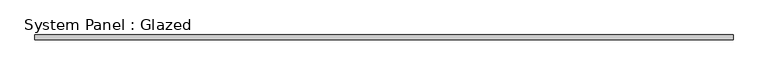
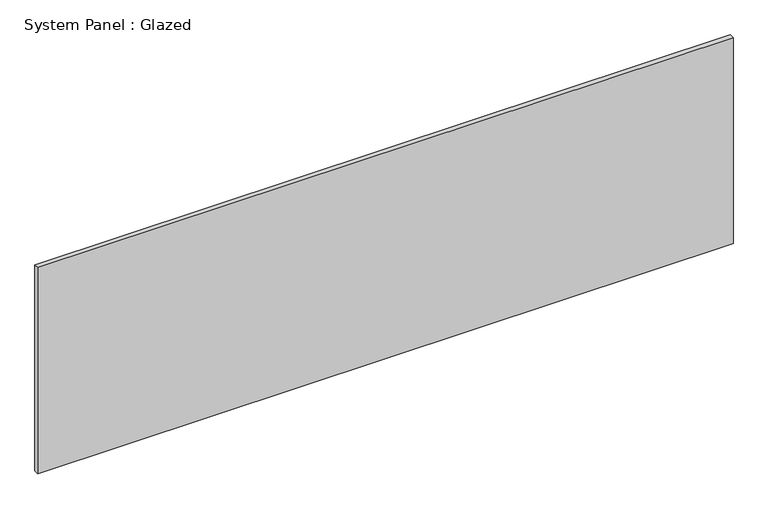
"""IFC4 building model written with IfcOpenShell, lengths in millimetres: plate geometry, System Panel : Glazed."""

from ifc_helpers import new_model, si_unit, origin, origin_with_axes, place, context, project, spatial, polyline, outline, extrude, source, transform, mapped, element, save


def system_panel_glazed_459c9171(model_context):
    return source(origin(), model_context, "Body", "SweptSolid", [
        extrude(outline(polyline([(1794.1857925, 24.5), (-1794.1857925, 24.5), (-1794.1857925, 49.5), (1794.1857925, 49.5), (1794.1857925, 24.5)])), origin_with_axes(), (0.0, 0.0, 1.0), 1125.0),
    ])


if __name__ == "__main__":
    model = new_model("IFC4")
    model_context = context("Model", 3, world=origin())
    ifc_project = project(units=[si_unit("LENGTHUNIT", "METRE", prefix="MILLI")], contexts=[model_context])
    site = spatial("IfcSite", under=ifc_project)
    building = spatial("IfcBuilding", under=site)
    placement = place(None, origin())
    system_panel_glazed_shape = system_panel_glazed_459c9171(model_context)
    element("IfcPlate", 1, ObjectType="System Panel : Glazed", at=placement, inside=building, context=model_context, shape_type="MappedRepresentation", body=[
        mapped(system_panel_glazed_shape, transform((0.0, 0.0, 0.0), x_axis=(1.0, 0.0, 0.0), y_axis=(0.0, 1.0, 0.0), z_axis=(0.0, 0.0, 1.0))),
    ])
    save(model, "model.ifc")
